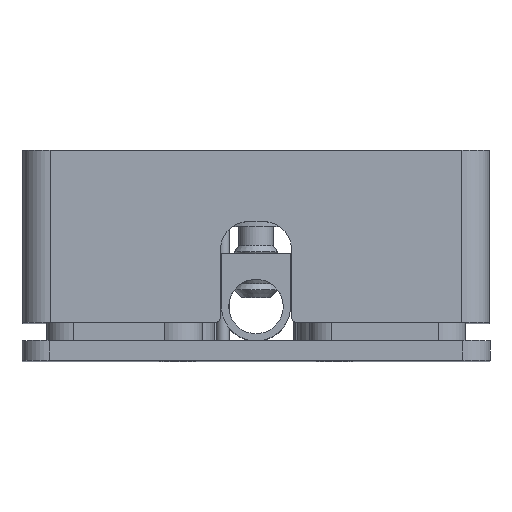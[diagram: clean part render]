
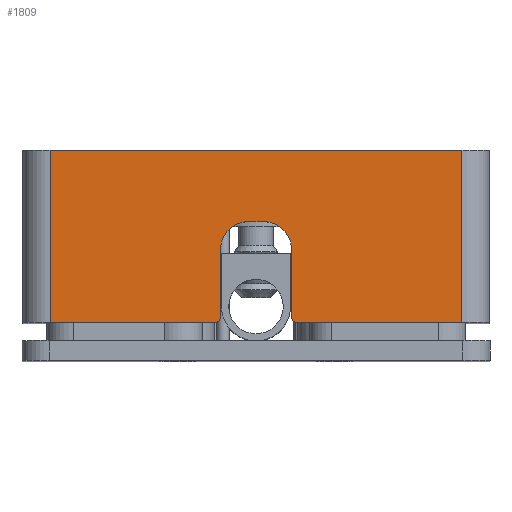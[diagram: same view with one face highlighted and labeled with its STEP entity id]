
A CAD part, top view. The second image highlights one B-rep face of the part: STEP entity #1809.
In plain terms, the highlighted planar face has unit normal (0, 0, 1) as drawn and (-1, 0, 0) by its records, which use the part's own axes.
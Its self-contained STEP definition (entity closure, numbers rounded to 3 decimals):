
#65 = LINE ( 'NONE', #5000, #5750 ) ;
#152 = DIRECTION ( 'NONE',  ( 0., -1., 0. ) ) ;
#162 = FACE_OUTER_BOUND ( 'NONE', #4380, .T. ) ;
#222 = CARTESIAN_POINT ( 'NONE',  ( -24.5, 1.5, -12.85 ) ) ;
#426 = CIRCLE ( 'NONE', #5271, 1.5 ) ;
#649 = VERTEX_POINT ( 'NONE', #5850 ) ;
#691 = CARTESIAN_POINT ( 'NONE',  ( -24.5, 9.5, -1.95 ) ) ;
#760 = CARTESIAN_POINT ( 'NONE',  ( -24.5, 9.5, 2.25 ) ) ;
#795 = PLANE ( 'NONE',  #3938 ) ;
#870 = LINE ( 'NONE', #2796, #2354 ) ;
#909 = CARTESIAN_POINT ( 'NONE',  ( -24.5, 9.2, -1.95 ) ) ;
#990 = EDGE_CURVE ( 'NONE', #4782, #5588, #6060, .T. ) ;
#1053 = DIRECTION ( 'NONE',  ( -1., 0., 0. ) ) ;
#1058 = VERTEX_POINT ( 'NONE', #1542 ) ;
#1092 = CARTESIAN_POINT ( 'NONE',  ( -24.5, 9.2, 1.95 ) ) ;
#1133 = DIRECTION ( 'NONE',  ( 0., 0., 1. ) ) ;
#1171 = DIRECTION ( 'NONE',  ( 0., 1., 0. ) ) ;
#1381 = DIRECTION ( 'NONE',  ( 1., 0., 0. ) ) ;
#1402 = VECTOR ( 'NONE', #2726, 1000. ) ;
#1411 = VERTEX_POINT ( 'NONE', #1092 ) ;
#1489 = VERTEX_POINT ( 'NONE', #3958 ) ;
#1542 = CARTESIAN_POINT ( 'NONE',  ( -24.5, 5.45, -1.95 ) ) ;
#1601 = CARTESIAN_POINT ( 'NONE',  ( -24.5, 9.5, 1.95 ) ) ;
#1797 = VERTEX_POINT ( 'NONE', #760 ) ;
#1809 = ADVANCED_FACE ( 'NONE', ( #162 ), #795, .F. ) ;
#1868 = VERTEX_POINT ( 'NONE', #1977 ) ;
#1916 = EDGE_CURVE ( 'NONE', #649, #1868, #4988, .T. ) ;
#1926 = LINE ( 'NONE', #5125, #5480 ) ;
#1977 = CARTESIAN_POINT ( 'NONE',  ( -24.5, 0., -11.35 ) ) ;
#1991 = ORIENTED_EDGE ( 'NONE', *, *, #990, .F. ) ;
#2122 = DIRECTION ( 'NONE',  ( 1., 0., 0. ) ) ;
#2313 = EDGE_CURVE ( 'NONE', #3535, #5588, #3065, .T. ) ;
#2327 = VECTOR ( 'NONE', #4856, 1000. ) ;
#2354 = VECTOR ( 'NONE', #1133, 1000. ) ;
#2505 = EDGE_CURVE ( 'NONE', #1489, #4310, #1926, .T. ) ;
#2537 = CIRCLE ( 'NONE', #4221, 0.3 ) ;
#2559 = VERTEX_POINT ( 'NONE', #6916 ) ;
#2726 = DIRECTION ( 'NONE',  ( 0., -1., 0. ) ) ;
#2796 = CARTESIAN_POINT ( 'NONE',  ( -24.5, 0., -12.85 ) ) ;
#2863 = EDGE_CURVE ( 'NONE', #1797, #1411, #5950, .T. ) ;
#2882 = DIRECTION ( 'NONE',  ( 1., 0., 0. ) ) ;
#3027 = ORIENTED_EDGE ( 'NONE', *, *, #1916, .T. ) ;
#3065 = CIRCLE ( 'NONE', #4291, 1.5 ) ;
#3070 = CARTESIAN_POINT ( 'NONE',  ( -24.5, 9.2, -2.25 ) ) ;
#3081 = VERTEX_POINT ( 'NONE', #909 ) ;
#3204 = ORIENTED_EDGE ( 'NONE', *, *, #3351, .F. ) ;
#3283 = ORIENTED_EDGE ( 'NONE', *, *, #6768, .T. ) ;
#3304 = DIRECTION ( 'NONE',  ( 0., -1., 0. ) ) ;
#3351 = EDGE_CURVE ( 'NONE', #1797, #4310, #3982, .T. ) ;
#3457 = ORIENTED_EDGE ( 'NONE', *, *, #2505, .T. ) ;
#3535 = VERTEX_POINT ( 'NONE', #5855 ) ;
#3647 = DIRECTION ( 'NONE',  ( 0., 0., -1. ) ) ;
#3777 = ORIENTED_EDGE ( 'NONE', *, *, #6251, .F. ) ;
#3938 = AXIS2_PLACEMENT_3D ( 'NONE', #222, #1381, #5335 ) ;
#3958 = CARTESIAN_POINT ( 'NONE',  ( -24.5, 0., 11.35 ) ) ;
#3982 = LINE ( 'NONE', #6252, #5513 ) ;
#3986 = DIRECTION ( 'NONE',  ( 0., 0., 1. ) ) ;
#4112 = ORIENTED_EDGE ( 'NONE', *, *, #4675, .T. ) ;
#4221 = AXIS2_PLACEMENT_3D ( 'NONE', #3070, #7096, #3647 ) ;
#4291 = AXIS2_PLACEMENT_3D ( 'NONE', #5540, #2122, #6081 ) ;
#4310 = VERTEX_POINT ( 'NONE', #4725 ) ;
#4380 = EDGE_LOOP ( 'NONE', ( #3204, #7208, #4112, #6233, #1991, #5531, #6489, #5674, #3777, #3027, #3283, #3457 ) ) ;
#4439 = CARTESIAN_POINT ( 'NONE',  ( -24.5, 9.2, 2.25 ) ) ;
#4598 = VECTOR ( 'NONE', #3304, 1000. ) ;
#4675 = EDGE_CURVE ( 'NONE', #1411, #3535, #6260, .T. ) ;
#4725 = CARTESIAN_POINT ( 'NONE',  ( -24.5, 9.5, 11.35 ) ) ;
#4782 = VERTEX_POINT ( 'NONE', #6838 ) ;
#4830 = CARTESIAN_POINT ( 'NONE',  ( -24.5, 3.95, -1.95 ) ) ;
#4856 = DIRECTION ( 'NONE',  ( 0., 0., 1. ) ) ;
#4941 = EDGE_CURVE ( 'NONE', #3081, #1058, #6919, .T. ) ;
#4963 = AXIS2_PLACEMENT_3D ( 'NONE', #4439, #1053, #5029 ) ;
#4988 = LINE ( 'NONE', #6568, #4598 ) ;
#5000 = CARTESIAN_POINT ( 'NONE',  ( -24.5, 9.5, -12.85 ) ) ;
#5029 = DIRECTION ( 'NONE',  ( 0., 0., -1. ) ) ;
#5125 = CARTESIAN_POINT ( 'NONE',  ( -24.5, 1.5, 11.35 ) ) ;
#5271 = AXIS2_PLACEMENT_3D ( 'NONE', #6305, #2882, #6900 ) ;
#5335 = DIRECTION ( 'NONE',  ( 0., 0., -1. ) ) ;
#5437 = CARTESIAN_POINT ( 'NONE',  ( -24.5, 3.95, 0.45 ) ) ;
#5480 = VECTOR ( 'NONE', #1171, 1000. ) ;
#5513 = VECTOR ( 'NONE', #3986, 1000. ) ;
#5531 = ORIENTED_EDGE ( 'NONE', *, *, #6349, .T. ) ;
#5540 = CARTESIAN_POINT ( 'NONE',  ( -24.5, 5.45, 0.45 ) ) ;
#5588 = VERTEX_POINT ( 'NONE', #5437 ) ;
#5674 = ORIENTED_EDGE ( 'NONE', *, *, #7298, .T. ) ;
#5750 = VECTOR ( 'NONE', #6086, 1000. ) ;
#5850 = CARTESIAN_POINT ( 'NONE',  ( -24.5, 9.5, -11.35 ) ) ;
#5855 = CARTESIAN_POINT ( 'NONE',  ( -24.5, 5.45, 1.95 ) ) ;
#5950 = CIRCLE ( 'NONE', #4963, 0.3 ) ;
#6060 = LINE ( 'NONE', #4830, #2327 ) ;
#6081 = DIRECTION ( 'NONE',  ( 0., 0., -1. ) ) ;
#6086 = DIRECTION ( 'NONE',  ( 0., 0., 1. ) ) ;
#6233 = ORIENTED_EDGE ( 'NONE', *, *, #2313, .T. ) ;
#6251 = EDGE_CURVE ( 'NONE', #649, #2559, #65, .T. ) ;
#6252 = CARTESIAN_POINT ( 'NONE',  ( -24.5, 9.5, 1.95 ) ) ;
#6260 = LINE ( 'NONE', #1601, #1402 ) ;
#6305 = CARTESIAN_POINT ( 'NONE',  ( -24.5, 5.45, -0.45 ) ) ;
#6349 = EDGE_CURVE ( 'NONE', #4782, #1058, #426, .T. ) ;
#6359 = VECTOR ( 'NONE', #152, 1000. ) ;
#6489 = ORIENTED_EDGE ( 'NONE', *, *, #4941, .F. ) ;
#6568 = CARTESIAN_POINT ( 'NONE',  ( -24.5, 1.5, -11.35 ) ) ;
#6768 = EDGE_CURVE ( 'NONE', #1868, #1489, #870, .T. ) ;
#6838 = CARTESIAN_POINT ( 'NONE',  ( -24.5, 3.95, -0.45 ) ) ;
#6900 = DIRECTION ( 'NONE',  ( 0., 0., -1. ) ) ;
#6916 = CARTESIAN_POINT ( 'NONE',  ( -24.5, 9.5, -2.25 ) ) ;
#6919 = LINE ( 'NONE', #691, #6359 ) ;
#7096 = DIRECTION ( 'NONE',  ( -1., 0., 0. ) ) ;
#7208 = ORIENTED_EDGE ( 'NONE', *, *, #2863, .T. ) ;
#7298 = EDGE_CURVE ( 'NONE', #3081, #2559, #2537, .T. ) ;
